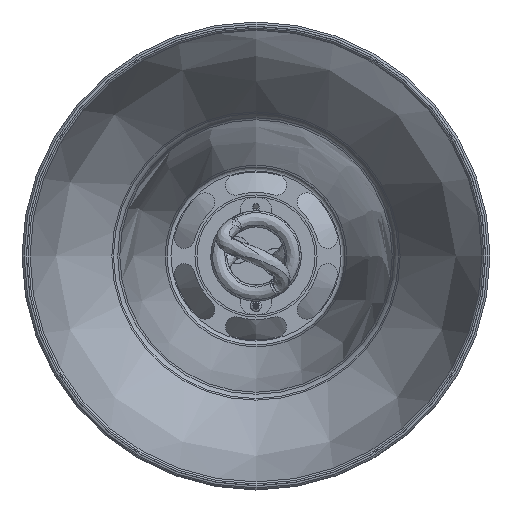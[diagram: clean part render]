
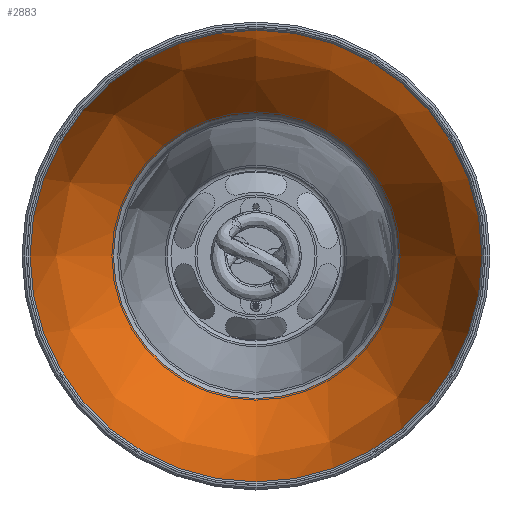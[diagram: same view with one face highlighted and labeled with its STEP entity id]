
A CAD part, front view. The second image highlights one B-rep face of the part: STEP entity #2883.
In plain terms, the highlighted free-form (B-spline) face has degree [2, 2] with [3, 9] control points.
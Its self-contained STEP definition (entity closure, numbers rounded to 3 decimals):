
#145=(
BOUNDED_SURFACE()
B_SPLINE_SURFACE(2,2,((#17967,#17968,#17969,#17970,#17971,#17972,#17973,
#17974,#17975),(#17976,#17977,#17978,#17979,#17980,#17981,#17982,#17983,
#17984),(#17985,#17986,#17987,#17988,#17989,#17990,#17991,#17992,#17993)),
 .UNSPECIFIED.,.F.,.T.,.F.)
B_SPLINE_SURFACE_WITH_KNOTS((3,3),(3,2,2,2,3),(-0.741,-0.087),
(-3.142,-1.571,0.,1.571,3.142),
 .UNSPECIFIED.)
GEOMETRIC_REPRESENTATION_ITEM()
RATIONAL_B_SPLINE_SURFACE(((1.,0.707,1.,0.707,1.,
0.707,1.,0.707,1.),(0.947,0.67,
0.947,0.67,0.947,0.67,0.947,
0.67,0.947),(1.,0.707,1.,0.707,
1.,0.707,1.,0.707,1.)))
REPRESENTATION_ITEM('')
SURFACE()
);
#491=FACE_OUTER_BOUND('',#700,.T.);
#700=EDGE_LOOP('',(#2501,#2502,#2503,#2504,#2505));
#1145=CIRCLE('',#3395,70.072);
#1146=CIRCLE('',#3396,70.072);
#1157=CIRCLE('',#3409,111.008);
#1158=CIRCLE('',#3410,158.471);
#1421=VERTEX_POINT('',#17918);
#1422=VERTEX_POINT('',#17919);
#1429=VERTEX_POINT('',#17994);
#1792=EDGE_CURVE('',#1421,#1422,#1145,.T.);
#1793=EDGE_CURVE('',#1422,#1421,#1146,.T.);
#1804=EDGE_CURVE('',#1429,#1429,#1157,.T.);
#1805=EDGE_CURVE('',#1429,#1421,#1158,.T.);
#2501=ORIENTED_EDGE('',*,*,#1804,.T.);
#2502=ORIENTED_EDGE('',*,*,#1805,.T.);
#2503=ORIENTED_EDGE('',*,*,#1792,.T.);
#2504=ORIENTED_EDGE('',*,*,#1793,.T.);
#2505=ORIENTED_EDGE('',*,*,#1805,.F.);
#2883=ADVANCED_FACE('',(#491),#145,.T.);
#3395=AXIS2_PLACEMENT_3D('',#17920,#4261,#4262);
#3396=AXIS2_PLACEMENT_3D('',#17921,#4263,#4264);
#3409=AXIS2_PLACEMENT_3D('',#17995,#4289,#4290);
#3410=AXIS2_PLACEMENT_3D('',#17996,#4291,#4292);
#4261=DIRECTION('center_axis',(0.,1.,0.));
#4262=DIRECTION('ref_axis',(0.,0.,
-1.));
#4263=DIRECTION('center_axis',(0.,1.,0.));
#4264=DIRECTION('ref_axis',(0.,0.,
-1.));
#4289=DIRECTION('center_axis',(0.,-1.,0.));
#4290=DIRECTION('ref_axis',(0.,0.,
-1.));
#4291=DIRECTION('center_axis',(-1.,0.,0.));
#4292=DIRECTION('ref_axis',(0.,0.,
1.));
#17918=CARTESIAN_POINT('',(0.,20.331,70.072));
#17919=CARTESIAN_POINT('',(0.,20.331,-70.072));
#17920=CARTESIAN_POINT('Origin',(0.,20.331,
0.));
#17921=CARTESIAN_POINT('Origin',(0.,20.331,
0.));
#17967=CARTESIAN_POINT('Ctrl Pts',(0.,20.331,
70.072));
#17968=CARTESIAN_POINT('Ctrl Pts',(-70.072,20.331,70.072));
#17969=CARTESIAN_POINT('Ctrl Pts',(-70.072,20.331,0.));
#17970=CARTESIAN_POINT('Ctrl Pts',(-70.072,20.331,-70.072));
#17971=CARTESIAN_POINT('Ctrl Pts',(0.,20.331,
-70.072));
#17972=CARTESIAN_POINT('Ctrl Pts',(70.072,20.331,-70.072));
#17973=CARTESIAN_POINT('Ctrl Pts',(70.072,20.331,0.));
#17974=CARTESIAN_POINT('Ctrl Pts',(70.072,20.331,70.072));
#17975=CARTESIAN_POINT('Ctrl Pts',(0.,20.331,
70.072));
#17976=CARTESIAN_POINT('Ctrl Pts',(0.,-19.304,
106.326));
#17977=CARTESIAN_POINT('Ctrl Pts',(-106.326,-19.304,
106.326));
#17978=CARTESIAN_POINT('Ctrl Pts',(-106.326,-19.304,
0.));
#17979=CARTESIAN_POINT('Ctrl Pts',(-106.326,-19.304,
-106.326));
#17980=CARTESIAN_POINT('Ctrl Pts',(0.,-19.304,
-106.326));
#17981=CARTESIAN_POINT('Ctrl Pts',(106.326,-19.304,-106.326));
#17982=CARTESIAN_POINT('Ctrl Pts',(106.326,-19.304,0.));
#17983=CARTESIAN_POINT('Ctrl Pts',(106.326,-19.304,106.326));
#17984=CARTESIAN_POINT('Ctrl Pts',(0.,-19.304,
106.326));
#17985=CARTESIAN_POINT('Ctrl Pts',(0.,-72.814,
111.008));
#17986=CARTESIAN_POINT('Ctrl Pts',(-111.008,-72.814,
111.008));
#17987=CARTESIAN_POINT('Ctrl Pts',(-111.008,-72.814,
0.));
#17988=CARTESIAN_POINT('Ctrl Pts',(-111.008,-72.814,
-111.008));
#17989=CARTESIAN_POINT('Ctrl Pts',(0.,-72.814,
-111.008));
#17990=CARTESIAN_POINT('Ctrl Pts',(111.008,-72.814,-111.008));
#17991=CARTESIAN_POINT('Ctrl Pts',(111.008,-72.814,0.));
#17992=CARTESIAN_POINT('Ctrl Pts',(111.008,-72.814,111.008));
#17993=CARTESIAN_POINT('Ctrl Pts',(0.,-72.814,
111.008));
#17994=CARTESIAN_POINT('',(0.,-72.814,111.008));
#17995=CARTESIAN_POINT('Origin',(0.,-72.814,
0.));
#17996=CARTESIAN_POINT('Origin',(0.,-86.626,
-46.86));
